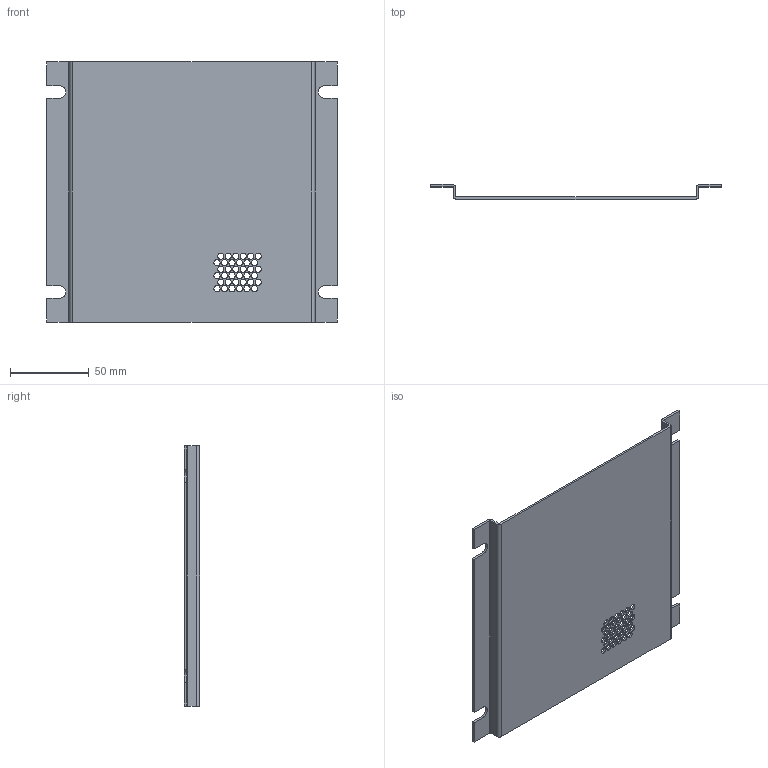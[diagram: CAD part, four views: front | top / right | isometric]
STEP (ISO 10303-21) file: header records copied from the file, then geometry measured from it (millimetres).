
FILE_DESCRIPTION( ( 'Unknown' ), '1' );
FILE_NAME( 'Q:/WEB DRAWINGS/STEP/SWBP88.stp', 'Unknown', ( 'Unknown' ), ( 'Unknown' ), 'PSStep 17.0.49', 'Unknown', ' ' );
FILE_SCHEMA( ( 'AUTOMOTIVE_DESIGN { 1 0 10303 214 1 1 1 1 }' ) );
Length unit declared in the file: millimetre
Products named in the file (1): 1
Bounding box: 184.43 x 9.53 x 165.1 mm (x, y, z)
Volume: 46190.3 mm3; surface area: 65627.8 mm2
Topology: 1 solids, 1 shells, 74 faces, 252 edges, 180 vertices
Faces by surface type: cylinder 48, plane 26
Full cylindrical faces by diameter (mm): 3.962 x36
Entity records: 2475 total; most frequent: DIRECTION 426, CARTESIAN_POINT 399, ORIENTED_EDGE 360, EDGE_LOOP 182, EDGE_CURVE 180, AXIS2_PLACEMENT_3D 171, VERTEX_POINT 144, FACE_OUTER_BOUND 110
